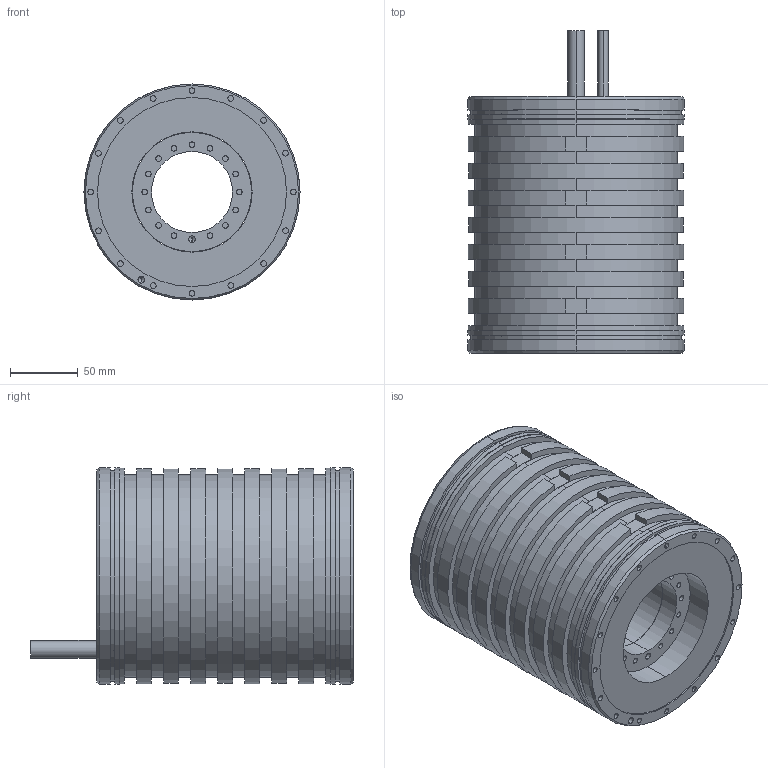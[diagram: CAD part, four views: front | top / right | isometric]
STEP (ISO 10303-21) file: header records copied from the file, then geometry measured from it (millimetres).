
FILE_DESCRIPTION (( 'STEP AP203' ), '1' );
FILE_NAME ('TM-2-1F.STEP', '2020-10-20T05:33:29', ( '' ), ( '' ), 'SwSTEP 2.0', 'SolidWorks 2015', '' );
FILE_SCHEMA (( 'CONFIG_CONTROL_DESIGN' ));
Length unit declared in the file: millimetre
Products named in the file (3): TM-2-1X_stator_TM-2-1F_stator; TM-2-1F; TM-2-1X_rotor_TM-2-1F_rotor
Assembly tree (2 placements, depth 2):
  TM-2-1F
    TM-2-1X_stator_TM-2-1F_stator
    TM-2-1X_rotor_TM-2-1F_rotor
Bounding box: 160 x 239 x 160 mm (x, y, z)
Volume: 2909095.2 mm3; surface area: 305549.7 mm2
Topology: 2 solids, 2 shells, 322 faces, 684 edges, 436 vertices
Faces by surface type: cylinder 193, plane 113, cone 16
Entity records: 9051 total; most frequent: DIRECTION 1720, CARTESIAN_POINT 1439, ORIENTED_EDGE 1352, AXIS2_PLACEMENT_3D 717, EDGE_CURVE 676, VERTEX_POINT 436, EDGE_LOOP 404, CIRCLE 390
